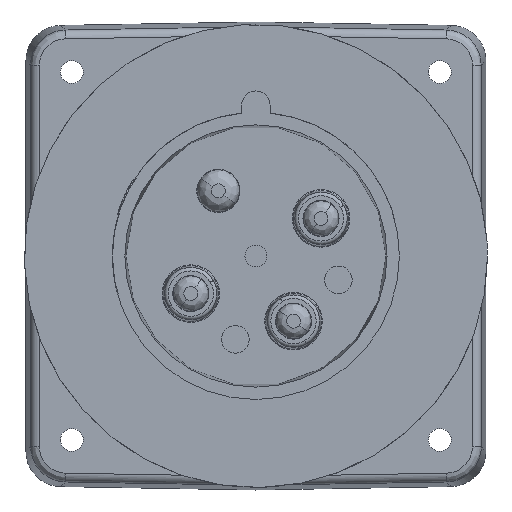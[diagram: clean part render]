
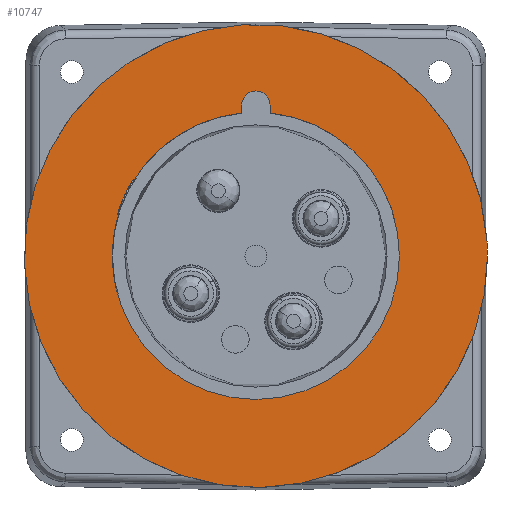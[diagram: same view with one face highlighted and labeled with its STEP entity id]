
A CAD part, front view. The second image highlights one B-rep face of the part: STEP entity #10747.
In plain terms, the highlighted planar face has unit normal (0, -1, 0).
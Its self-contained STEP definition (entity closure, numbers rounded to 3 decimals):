
#411=CARTESIAN_POINT('',(0.,-16.9,0.));
#412=DIRECTION('',(0.,-1.,0.));
#413=DIRECTION('',(1.,0.,0.));
#414=AXIS2_PLACEMENT_3D('',#411,#412,#413);
#541=CARTESIAN_POINT('',(0.,-16.9,0.));
#542=DIRECTION('',(0.,-1.,0.));
#543=DIRECTION('',(1.,0.,0.));
#544=AXIS2_PLACEMENT_3D('',#541,#542,#543);
#550=CARTESIAN_POINT('',(0.,-16.9,0.));
#551=DIRECTION('',(0.,-1.,0.));
#552=DIRECTION('',(0.997,0.,0.076));
#553=AXIS2_PLACEMENT_3D('',#550,#551,#552);
#7770=CARTESIAN_POINT('',(0.,-16.9,0.));
#7771=DIRECTION('',(0.,-1.,0.));
#7772=DIRECTION('',(-1.,0.,0.));
#7773=AXIS2_PLACEMENT_3D('',#7770,#7771,#7772);
#10159=CARTESIAN_POINT('',(65.45,-16.9,0.));
#10160=CARTESIAN_POINT('',(65.259,-16.9,5.));
#10161=VERTEX_POINT('',#10159);
#10162=VERTEX_POINT('',#10160);
#10371=CARTESIAN_POINT('',(40.55,-16.9,0.));
#10372=CARTESIAN_POINT('',(-40.55,-16.9,0.));
#10373=VERTEX_POINT('',#10371);
#10374=VERTEX_POINT('',#10372);
#10731=CARTESIAN_POINT('',(0.,-16.9,0.));
#10732=DIRECTION('',(0.,-1.,0.));
#10733=DIRECTION('',(-1.,0.,0.));
#10734=AXIS2_PLACEMENT_3D('',#10731,#10732,#10733);
#10735=PLANE('447',#10734);
#10737=ORIENTED_EDGE('1786',*,*,#10736,.F.);
#10739=ORIENTED_EDGE('1784',*,*,#10738,.F.);
#10740=EDGE_LOOP('447',(#10737,#10739));
#10741=FACE_OUTER_BOUND('447',#10740,.F.);
#10742=ORIENTED_EDGE('2061',*,*,#10646,.T.);
#10744=ORIENTED_EDGE('2062',*,*,#10743,.T.);
#10745=EDGE_LOOP('447',(#10742,#10744));
#10746=FACE_BOUND('447',#10745,.F.);
#415=CIRCLE('2061',#414,40.55);
#545=CIRCLE('1784',#544,65.45);
#554=CIRCLE('1786',#553,65.45);
#7774=CIRCLE('2062',#7773,40.55);
#10646=EDGE_CURVE('2061',#10373,#10374,#415,.T.);
#10736=EDGE_CURVE('1786',#10162,#10161,#554,.T.);
#10738=EDGE_CURVE('1784',#10161,#10162,#545,.T.);
#10743=EDGE_CURVE('2062',#10374,#10373,#7774,.T.);
#10747=ADVANCED_FACE('447',(#10741,#10746),#10735,.T.);
